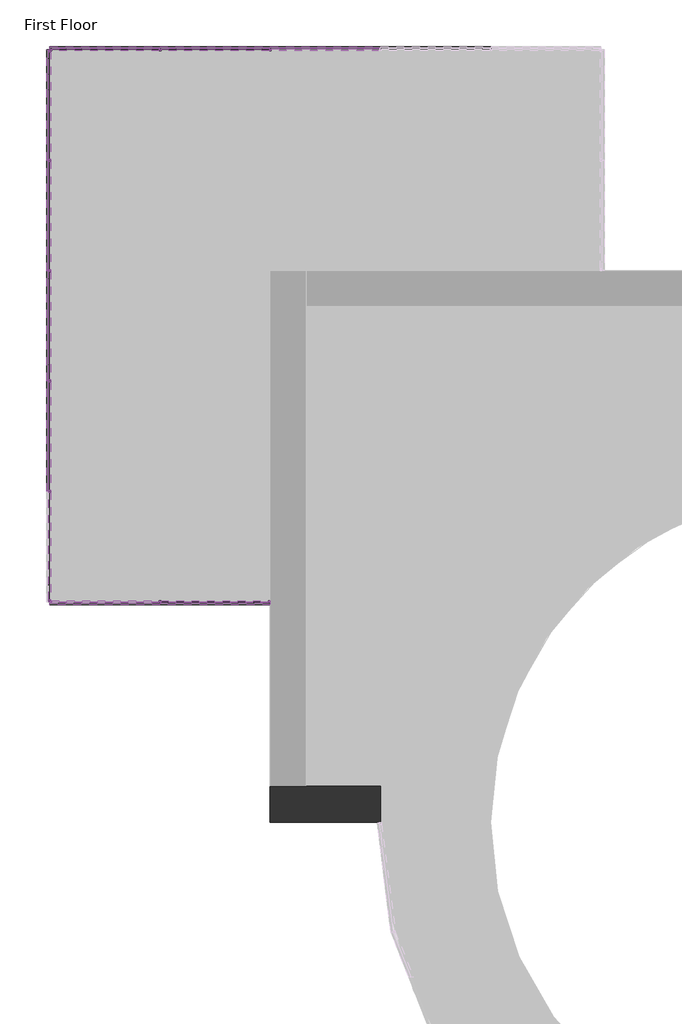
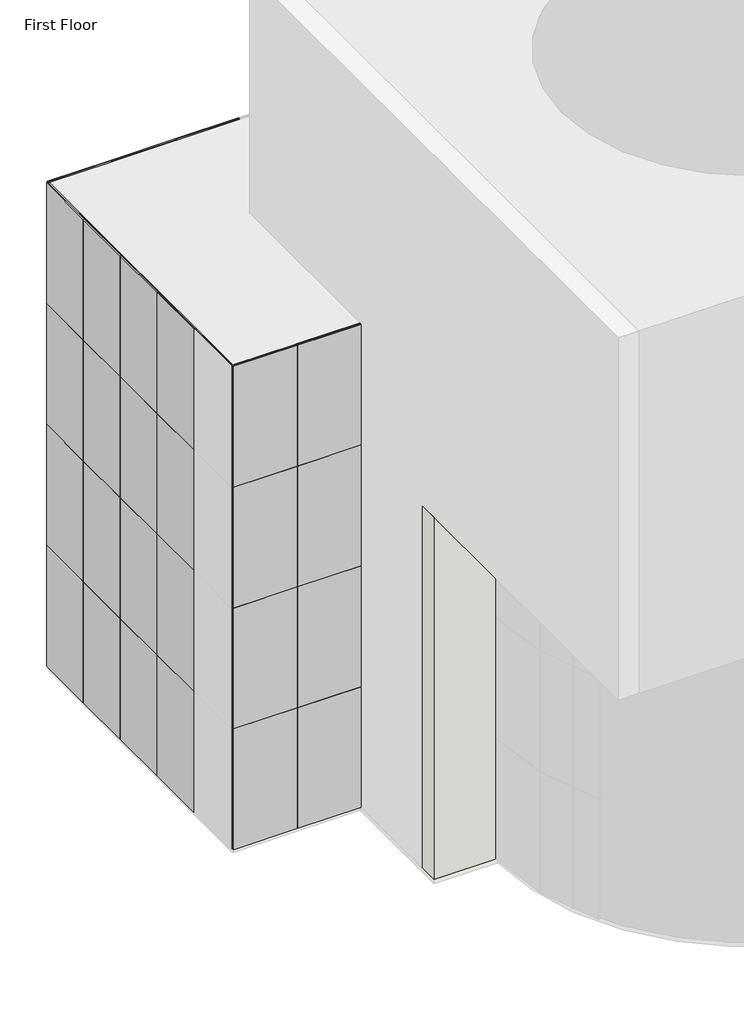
# One storey, part 3 of 4: 93 members, 37 plates, 1 wall.
"""IFC4 building model written with IfcOpenShell, lengths in millimetres."""

from ifc_helpers import new_model, si_unit, origin, place, context, project, spatial, faceted_brep, transform, mapped, element, save
from components import member_cbdb9076, member_7e523723, member_e16e0e7d, member_15743826, member_c4f80b05, member_9fd3d903, member_6604d1e0, system_panel_glazed_c0c5e10a

model = new_model("IFC4")

# Units and contexts
model_context = context("Model", 3, world=origin())
ifc_project = project(units=[si_unit("LENGTHUNIT", "METRE", prefix="MILLI")], contexts=[model_context])

# Site, building, storey
site = spatial("IfcSite", under=ifc_project)
building = spatial("IfcBuilding", under=site)
storey = spatial("IfcBuildingStorey", under=building, Name="First Floor", Elevation=0.0)

# Members
placement = place(None, origin())
member_shape = member_cbdb9076(model_context)
element("IfcMember", 1, ObjectType="Rectangular Mullion : 1\" Square", at=placement, inside=storey, context=model_context, shape_type="MappedRepresentation", body=[
    mapped(member_shape, transform((-12832.4887608, 7000.2454612, 0.0), x_axis=(1.0, 0.0, 0.0), y_axis=(0.0, -1.0, 0.0), z_axis=(0.0, 0.0, -1.0))),
])
element("IfcMember", 2, ObjectType="Rectangular Mullion : 1\" Square", at=placement, inside=storey, context=model_context, shape_type="MappedRepresentation", body=[
    mapped(member_shape, transform((-14356.4887611, 13096.2454609, 0.0), x_axis=(0.0, -1.0, 0.0), y_axis=(-1.0, 0.0, 0.0), z_axis=(0.0, 0.0, -1.0))),
])
element("IfcMember", 3, ObjectType="Rectangular Mullion : 1\" Square", at=placement, inside=storey, context=model_context, shape_type="MappedRepresentation", body=[
    mapped(member_shape, transform((-14356.4887611, 11572.2454609, 0.0), x_axis=(0.0, -1.0, 0.0), y_axis=(-1.0, 0.0, 0.0), z_axis=(0.0, 0.0, -1.0))),
])
element("IfcMember", 4, ObjectType="Rectangular Mullion : 1\" Square", at=placement, inside=storey, context=model_context, shape_type="MappedRepresentation", body=[
    mapped(member_shape, transform((-14356.4887611, 10048.2454609, 0.0), x_axis=(0.0, -1.0, 0.0), y_axis=(-1.0, 0.0, 0.0), z_axis=(0.0, 0.0, -1.0))),
])
element("IfcMember", 5, ObjectType="Rectangular Mullion : 1\" Square", at=placement, inside=storey, context=model_context, shape_type="MappedRepresentation", body=[
    mapped(member_shape, transform((-14356.4887611, 8524.2454609, 0.0), x_axis=(0.0, -1.0, 0.0), y_axis=(-1.0, 0.0, 0.0), z_axis=(0.0, 0.0, -1.0))),
])
element("IfcMember", 6, ObjectType="Rectangular Mullion : 1\" Square", at=placement, inside=storey, context=model_context, shape_type="MappedRepresentation", body=[
    mapped(member_shape, transform((-11308.4887614, 14620.2454612, 0.0), x_axis=(-1.0, 0.0, 0.0), y_axis=(0.0, 1.0, 0.0), z_axis=(0.0, 0.0, -1.0))),
])
element("IfcMember", 7, ObjectType="Rectangular Mullion : 1\" Square", at=placement, inside=storey, context=model_context, shape_type="MappedRepresentation", body=[
    mapped(member_shape, transform((-12832.4887614, 14620.2454612, 0.0), x_axis=(-1.0, 0.0, 0.0), y_axis=(0.0, 1.0, 0.0), z_axis=(0.0, 0.0, -1.0))),
])
element("IfcMember", 8, ObjectType="Rectangular Mullion : 1\" Square", at=placement, inside=storey, context=model_context, shape_type="MappedRepresentation", body=[
    mapped(member_shape, transform((-12832.4887608, 7000.2454612, 3048.0), x_axis=(1.0, 0.0, 0.0), y_axis=(0.0, -1.0, 0.0), z_axis=(0.0, 0.0, -1.0))),
])
element("IfcMember", 9, ObjectType="Rectangular Mullion : 1\" Square", at=placement, inside=storey, context=model_context, shape_type="MappedRepresentation", body=[
    mapped(member_shape, transform((-12832.4887608, 7000.2454612, 6096.0), x_axis=(1.0, 0.0, 0.0), y_axis=(0.0, -1.0, 0.0), z_axis=(0.0, 0.0, -1.0))),
])
element("IfcMember", 10, ObjectType="Rectangular Mullion : 1\" Square", at=placement, inside=storey, context=model_context, shape_type="MappedRepresentation", body=[
    mapped(member_shape, transform((-14356.4887611, 13096.2454609, 3048.0), x_axis=(0.0, -1.0, 0.0), y_axis=(-1.0, 0.0, 0.0), z_axis=(0.0, 0.0, -1.0))),
])
element("IfcMember", 11, ObjectType="Rectangular Mullion : 1\" Square", at=placement, inside=storey, context=model_context, shape_type="MappedRepresentation", body=[
    mapped(member_shape, transform((-14356.4887611, 13096.2454609, 6096.0), x_axis=(0.0, -1.0, 0.0), y_axis=(-1.0, 0.0, 0.0), z_axis=(0.0, 0.0, -1.0))),
])
element("IfcMember", 12, ObjectType="Rectangular Mullion : 1\" Square", at=placement, inside=storey, context=model_context, shape_type="MappedRepresentation", body=[
    mapped(member_shape, transform((-14356.4887611, 11572.2454609, 3048.0), x_axis=(0.0, -1.0, 0.0), y_axis=(-1.0, 0.0, 0.0), z_axis=(0.0, 0.0, -1.0))),
])
element("IfcMember", 13, ObjectType="Rectangular Mullion : 1\" Square", at=placement, inside=storey, context=model_context, shape_type="MappedRepresentation", body=[
    mapped(member_shape, transform((-14356.4887611, 11572.2454609, 6096.0), x_axis=(0.0, -1.0, 0.0), y_axis=(-1.0, 0.0, 0.0), z_axis=(0.0, 0.0, -1.0))),
])
element("IfcMember", 14, ObjectType="Rectangular Mullion : 1\" Square", at=placement, inside=storey, context=model_context, shape_type="MappedRepresentation", body=[
    mapped(member_shape, transform((-14356.4887611, 10048.2454609, 3048.0), x_axis=(0.0, -1.0, 0.0), y_axis=(-1.0, 0.0, 0.0), z_axis=(0.0, 0.0, -1.0))),
])
element("IfcMember", 15, ObjectType="Rectangular Mullion : 1\" Square", at=placement, inside=storey, context=model_context, shape_type="MappedRepresentation", body=[
    mapped(member_shape, transform((-14356.4887611, 10048.2454609, 6096.0), x_axis=(0.0, -1.0, 0.0), y_axis=(-1.0, 0.0, 0.0), z_axis=(0.0, 0.0, -1.0))),
])
element("IfcMember", 16, ObjectType="Rectangular Mullion : 1\" Square", at=placement, inside=storey, context=model_context, shape_type="MappedRepresentation", body=[
    mapped(member_shape, transform((-14356.4887611, 8524.2454609, 3048.0), x_axis=(0.0, -1.0, 0.0), y_axis=(-1.0, 0.0, 0.0), z_axis=(0.0, 0.0, -1.0))),
])
element("IfcMember", 17, ObjectType="Rectangular Mullion : 1\" Square", at=placement, inside=storey, context=model_context, shape_type="MappedRepresentation", body=[
    mapped(member_shape, transform((-14356.4887611, 8524.2454609, 6096.0), x_axis=(0.0, -1.0, 0.0), y_axis=(-1.0, 0.0, 0.0), z_axis=(0.0, 0.0, -1.0))),
])
element("IfcMember", 18, ObjectType="Rectangular Mullion : 1\" Square", at=placement, inside=storey, context=model_context, shape_type="MappedRepresentation", body=[
    mapped(member_shape, transform((-11308.4887614, 14620.2454612, 3048.0), x_axis=(-1.0, 0.0, 0.0), y_axis=(0.0, 1.0, 0.0), z_axis=(0.0, 0.0, -1.0))),
])
element("IfcMember", 19, ObjectType="Rectangular Mullion : 1\" Square", at=placement, inside=storey, context=model_context, shape_type="MappedRepresentation", body=[
    mapped(member_shape, transform((-11308.4887614, 14620.2454612, 6096.0), x_axis=(-1.0, 0.0, 0.0), y_axis=(0.0, 1.0, 0.0), z_axis=(0.0, 0.0, -1.0))),
])
element("IfcMember", 20, ObjectType="Rectangular Mullion : 1\" Square", at=placement, inside=storey, context=model_context, shape_type="MappedRepresentation", body=[
    mapped(member_shape, transform((-12832.4887614, 14620.2454612, 3048.0), x_axis=(-1.0, 0.0, 0.0), y_axis=(0.0, 1.0, 0.0), z_axis=(0.0, 0.0, -1.0))),
])
element("IfcMember", 21, ObjectType="Rectangular Mullion : 1\" Square", at=placement, inside=storey, context=model_context, shape_type="MappedRepresentation", body=[
    mapped(member_shape, transform((-12832.4887614, 14620.2454612, 6096.0), x_axis=(-1.0, 0.0, 0.0), y_axis=(0.0, 1.0, 0.0), z_axis=(0.0, 0.0, -1.0))),
])
element("IfcMember", 22, ObjectType="Rectangular Mullion : 1\" Square", at=placement, inside=storey, context=model_context, shape_type="MappedRepresentation", body=[
    mapped(member_shape, transform((-12832.4887608, 7000.2454612, 9144.0), x_axis=(1.0, 0.0, 0.0), y_axis=(0.0, -1.0, 0.0), z_axis=(0.0, 0.0, -1.0))),
])
element("IfcMember", 23, ObjectType="Rectangular Mullion : 1\" Square", at=placement, inside=storey, context=model_context, shape_type="MappedRepresentation", body=[
    mapped(member_shape, transform((-14356.4887611, 13096.2454609, 9144.0), x_axis=(0.0, -1.0, 0.0), y_axis=(-1.0, 0.0, 0.0), z_axis=(0.0, 0.0, -1.0))),
])
element("IfcMember", 24, ObjectType="Rectangular Mullion : 1\" Square", at=placement, inside=storey, context=model_context, shape_type="MappedRepresentation", body=[
    mapped(member_shape, transform((-14356.4887611, 11572.2454609, 9144.0), x_axis=(0.0, -1.0, 0.0), y_axis=(-1.0, 0.0, 0.0), z_axis=(0.0, 0.0, -1.0))),
])
element("IfcMember", 25, ObjectType="Rectangular Mullion : 1\" Square", at=placement, inside=storey, context=model_context, shape_type="MappedRepresentation", body=[
    mapped(member_shape, transform((-14356.4887611, 10048.2454609, 9144.0), x_axis=(0.0, -1.0, 0.0), y_axis=(-1.0, 0.0, 0.0), z_axis=(0.0, 0.0, -1.0))),
])
element("IfcMember", 26, ObjectType="Rectangular Mullion : 1\" Square", at=placement, inside=storey, context=model_context, shape_type="MappedRepresentation", body=[
    mapped(member_shape, transform((-14356.4887611, 8524.2454609, 9144.0), x_axis=(0.0, -1.0, 0.0), y_axis=(-1.0, 0.0, 0.0), z_axis=(0.0, 0.0, -1.0))),
])
element("IfcMember", 27, ObjectType="Rectangular Mullion : 1\" Square", at=placement, inside=storey, context=model_context, shape_type="MappedRepresentation", body=[
    mapped(member_shape, transform((-11308.4887614, 14620.2454612, 9144.0), x_axis=(-1.0, 0.0, 0.0), y_axis=(0.0, 1.0, 0.0), z_axis=(0.0, 0.0, -1.0))),
])
element("IfcMember", 28, ObjectType="Rectangular Mullion : 1\" Square", at=placement, inside=storey, context=model_context, shape_type="MappedRepresentation", body=[
    mapped(member_shape, transform((-12832.4887614, 14620.2454612, 9144.0), x_axis=(-1.0, 0.0, 0.0), y_axis=(0.0, 1.0, 0.0), z_axis=(0.0, 0.0, -1.0))),
])
member_2_shape = member_7e523723(model_context)
element("IfcMember", 29, ObjectType="Rectangular Mullion : 1\" Square", at=placement, inside=storey, context=model_context, shape_type="MappedRepresentation", body=[
    mapped(member_2_shape, transform((-11308.4887611, 7000.2454612, 0.0), x_axis=(1.0, 0.0, 0.0), y_axis=(0.0, -1.0, 0.0), z_axis=(0.0, 0.0, -1.0))),
])
element("IfcMember", 30, ObjectType="Rectangular Mullion : 1\" Square", at=placement, inside=storey, context=model_context, shape_type="MappedRepresentation", body=[
    mapped(member_2_shape, transform((-14356.4887611, 7000.2454612, 0.0), x_axis=(0.0, -1.0, 0.0), y_axis=(-1.0, 0.0, 0.0), z_axis=(0.0, 0.0, -1.0))),
])
element("IfcMember", 31, ObjectType="Rectangular Mullion : 1\" Square", at=placement, inside=storey, context=model_context, shape_type="MappedRepresentation", body=[
    mapped(member_2_shape, transform((-14356.4887611, 14620.2454612, 0.0), x_axis=(-1.0, 0.0, 0.0), y_axis=(0.0, 1.0, 0.0), z_axis=(0.0, 0.0, -1.0))),
])
element("IfcMember", 32, ObjectType="Rectangular Mullion : 1\" Square", at=placement, inside=storey, context=model_context, shape_type="MappedRepresentation", body=[
    mapped(member_2_shape, transform((-14356.4887611, 14620.2454612, 12192.0), x_axis=(0.0, 1.0, 0.0), y_axis=(-1.0, 0.0, 0.0), z_axis=(0.0, 0.0, 1.0))),
])
element("IfcMember", 33, ObjectType="Rectangular Mullion : 1\" Square", at=placement, inside=storey, context=model_context, shape_type="MappedRepresentation", body=[
    mapped(member_2_shape, transform((-14356.4887611, 14620.2454612, 3048.0), x_axis=(0.0, 1.0, 0.0), y_axis=(-1.0, 0.0, 0.0), z_axis=(0.0, 0.0, 1.0))),
])
element("IfcMember", 34, ObjectType="Rectangular Mullion : 1\" Square", at=placement, inside=storey, context=model_context, shape_type="MappedRepresentation", body=[
    mapped(member_2_shape, transform((-14356.4887611, 7000.2454612, 9144.0), x_axis=(-1.0, 0.0, 0.0), y_axis=(0.0, -1.0, 0.0), z_axis=(0.0, 0.0, 1.0))),
])
element("IfcMember", 35, ObjectType="Rectangular Mullion : 1\" Square", at=placement, inside=storey, context=model_context, shape_type="MappedRepresentation", body=[
    mapped(member_2_shape, transform((-14356.4887611, 14620.2454612, 6096.0), x_axis=(0.0, 1.0, 0.0), y_axis=(-1.0, 0.0, 0.0), z_axis=(0.0, 0.0, 1.0))),
])
element("IfcMember", 36, ObjectType="Rectangular Mullion : 1\" Square", at=placement, inside=storey, context=model_context, shape_type="MappedRepresentation", body=[
    mapped(member_2_shape, transform((-14356.4887611, 14620.2454612, 9144.0), x_axis=(0.0, 1.0, 0.0), y_axis=(-1.0, 0.0, 0.0), z_axis=(0.0, 0.0, 1.0))),
])
element("IfcMember", 37, ObjectType="Rectangular Mullion : 1\" Square", at=placement, inside=storey, context=model_context, shape_type="MappedRepresentation", body=[
    mapped(member_2_shape, transform((-11308.4887611, 7000.2454612, 3048.0), x_axis=(1.0, 0.0, 0.0), y_axis=(0.0, -1.0, 0.0), z_axis=(0.0, 0.0, -1.0))),
])
element("IfcMember", 38, ObjectType="Rectangular Mullion : 1\" Square", at=placement, inside=storey, context=model_context, shape_type="MappedRepresentation", body=[
    mapped(member_2_shape, transform((-11308.4887611, 7000.2454612, 6096.0), x_axis=(1.0, 0.0, 0.0), y_axis=(0.0, -1.0, 0.0), z_axis=(0.0, 0.0, -1.0))),
])
element("IfcMember", 39, ObjectType="Rectangular Mullion : 1\" Square", at=placement, inside=storey, context=model_context, shape_type="MappedRepresentation", body=[
    mapped(member_2_shape, transform((-14356.4887611, 7000.2454612, 3048.0), x_axis=(0.0, -1.0, 0.0), y_axis=(-1.0, 0.0, 0.0), z_axis=(0.0, 0.0, -1.0))),
])
element("IfcMember", 40, ObjectType="Rectangular Mullion : 1\" Square", at=placement, inside=storey, context=model_context, shape_type="MappedRepresentation", body=[
    mapped(member_2_shape, transform((-14356.4887611, 7000.2454612, 6096.0), x_axis=(0.0, -1.0, 0.0), y_axis=(-1.0, 0.0, 0.0), z_axis=(0.0, 0.0, -1.0))),
])
element("IfcMember", 41, ObjectType="Rectangular Mullion : 1\" Square", at=placement, inside=storey, context=model_context, shape_type="MappedRepresentation", body=[
    mapped(member_2_shape, transform((-14356.4887611, 14620.2454612, 3048.0), x_axis=(-1.0, 0.0, 0.0), y_axis=(0.0, 1.0, 0.0), z_axis=(0.0, 0.0, -1.0))),
])
element("IfcMember", 42, ObjectType="Rectangular Mullion : 1\" Square", at=placement, inside=storey, context=model_context, shape_type="MappedRepresentation", body=[
    mapped(member_2_shape, transform((-14356.4887611, 14620.2454612, 6096.0), x_axis=(-1.0, 0.0, 0.0), y_axis=(0.0, 1.0, 0.0), z_axis=(0.0, 0.0, -1.0))),
])
element("IfcMember", 43, ObjectType="Rectangular Mullion : 1\" Square", at=placement, inside=storey, context=model_context, shape_type="MappedRepresentation", body=[
    mapped(member_2_shape, transform((-11308.4887611, 7000.2454612, 9144.0), x_axis=(1.0, 0.0, 0.0), y_axis=(0.0, -1.0, 0.0), z_axis=(0.0, 0.0, -1.0))),
])
element("IfcMember", 44, ObjectType="Rectangular Mullion : 1\" Square", at=placement, inside=storey, context=model_context, shape_type="MappedRepresentation", body=[
    mapped(member_2_shape, transform((-14356.4887611, 7000.2454612, 9144.0), x_axis=(0.0, -1.0, 0.0), y_axis=(-1.0, 0.0, 0.0), z_axis=(0.0, 0.0, -1.0))),
])
element("IfcMember", 45, ObjectType="Rectangular Mullion : 1\" Square", at=placement, inside=storey, context=model_context, shape_type="MappedRepresentation", body=[
    mapped(member_2_shape, transform((-14356.4887611, 14620.2454612, 9144.0), x_axis=(-1.0, 0.0, 0.0), y_axis=(0.0, 1.0, 0.0), z_axis=(0.0, 0.0, -1.0))),
])
member_3_shape = member_e16e0e7d(model_context)
element("IfcMember", 46, ObjectType="Rectangular Mullion : 1\" Square", at=placement, inside=storey, context=model_context, shape_type="MappedRepresentation", body=[
    mapped(member_3_shape, transform((-11333.8887611, 7000.2454612, 12192.0), x_axis=(0.0, 0.0, 1.0), y_axis=(0.0, -1.0, 0.0), z_axis=(1.0, 0.0, 0.0))),
])
element("IfcMember", 47, ObjectType="Rectangular Mullion : 1\" Square", at=placement, inside=storey, context=model_context, shape_type="MappedRepresentation", body=[
    mapped(member_3_shape, transform((-12845.1887608, 7000.2454612, 12192.0), x_axis=(0.0, 0.0, 1.0), y_axis=(0.0, -1.0, 0.0), z_axis=(1.0, 0.0, 0.0))),
])
element("IfcMember", 48, ObjectType="Rectangular Mullion : 1\" Square", at=placement, inside=storey, context=model_context, shape_type="MappedRepresentation", body=[
    mapped(member_3_shape, transform((-14356.4887611, 7025.6454612, 12192.0), x_axis=(0.0, 0.0, 1.0), y_axis=(-1.0, 0.0, 0.0), z_axis=(0.0, -1.0, 0.0))),
])
element("IfcMember", 49, ObjectType="Rectangular Mullion : 1\" Square", at=placement, inside=storey, context=model_context, shape_type="MappedRepresentation", body=[
    mapped(member_3_shape, transform((-14356.4887611, 13108.9454609, 12192.0), x_axis=(0.0, 0.0, 1.0), y_axis=(-1.0, 0.0, 0.0), z_axis=(0.0, -1.0, 0.0))),
])
element("IfcMember", 50, ObjectType="Rectangular Mullion : 1\" Square", at=placement, inside=storey, context=model_context, shape_type="MappedRepresentation", body=[
    mapped(member_3_shape, transform((-14331.0887611, 14620.2454612, 12192.0), x_axis=(0.0, 0.0, 1.0), y_axis=(0.0, 1.0, 0.0), z_axis=(-1.0, 0.0, 0.0))),
])
member_4_shape = member_15743826(model_context)
element("IfcMember", 51, ObjectType="Rectangular Mullion : 1\" Square", at=placement, inside=storey, context=model_context, shape_type="MappedRepresentation", body=[
    mapped(member_4_shape, transform((-12819.7887608, 7000.2454612, 0.0), x_axis=(0.0, 0.0, -1.0), y_axis=(0.0, -1.0, 0.0), z_axis=(-1.0, 0.0, 0.0))),
])
element("IfcMember", 52, ObjectType="Rectangular Mullion : 1\" Square", at=placement, inside=storey, context=model_context, shape_type="MappedRepresentation", body=[
    mapped(member_4_shape, transform((-14356.4887611, 14594.8454612, 0.0), x_axis=(0.0, 0.0, -1.0), y_axis=(-1.0, 0.0, 0.0), z_axis=(0.0, 1.0, 0.0))),
])
element("IfcMember", 53, ObjectType="Rectangular Mullion : 1\" Square", at=placement, inside=storey, context=model_context, shape_type="MappedRepresentation", body=[
    mapped(member_4_shape, transform((-14356.4887611, 8511.5454609, 0.0), x_axis=(0.0, 0.0, -1.0), y_axis=(-1.0, 0.0, 0.0), z_axis=(0.0, 1.0, 0.0))),
])
element("IfcMember", 54, ObjectType="Rectangular Mullion : 1\" Square", at=placement, inside=storey, context=model_context, shape_type="MappedRepresentation", body=[
    mapped(member_4_shape, transform((-12845.1887614, 14620.2454612, 0.0), x_axis=(0.0, 0.0, -1.0), y_axis=(0.0, 1.0, 0.0), z_axis=(1.0, 0.0, 0.0))),
])
member_5_shape = member_c4f80b05(model_context)
element("IfcMember", 55, ObjectType="Rectangular Mullion : 1\" Square", at=placement, inside=storey, context=model_context, shape_type="MappedRepresentation", body=[
    mapped(member_5_shape, transform((-12845.1887608, 7000.2454612, 3048.0), x_axis=(0.0, 0.0, 1.0), y_axis=(0.0, -1.0, 0.0), z_axis=(1.0, 0.0, 0.0))),
])
element("IfcMember", 56, ObjectType="Rectangular Mullion : 1\" Square", at=placement, inside=storey, context=model_context, shape_type="MappedRepresentation", body=[
    mapped(member_5_shape, transform((-11333.8887611, 7000.2454612, 3048.0), x_axis=(0.0, 0.0, 1.0), y_axis=(0.0, -1.0, 0.0), z_axis=(1.0, 0.0, 0.0))),
])
element("IfcMember", 57, ObjectType="Rectangular Mullion : 1\" Square", at=placement, inside=storey, context=model_context, shape_type="MappedRepresentation", body=[
    mapped(member_5_shape, transform((-12845.1887608, 7000.2454612, 6096.0), x_axis=(0.0, 0.0, 1.0), y_axis=(0.0, -1.0, 0.0), z_axis=(1.0, 0.0, 0.0))),
])
element("IfcMember", 58, ObjectType="Rectangular Mullion : 1\" Square", at=placement, inside=storey, context=model_context, shape_type="MappedRepresentation", body=[
    mapped(member_5_shape, transform((-11333.8887611, 7000.2454612, 6096.0), x_axis=(0.0, 0.0, 1.0), y_axis=(0.0, -1.0, 0.0), z_axis=(1.0, 0.0, 0.0))),
])
element("IfcMember", 59, ObjectType="Rectangular Mullion : 1\" Square", at=placement, inside=storey, context=model_context, shape_type="MappedRepresentation", body=[
    mapped(member_5_shape, transform((-12845.1887608, 7000.2454612, 9144.0), x_axis=(0.0, 0.0, 1.0), y_axis=(0.0, -1.0, 0.0), z_axis=(1.0, 0.0, 0.0))),
])
element("IfcMember", 60, ObjectType="Rectangular Mullion : 1\" Square", at=placement, inside=storey, context=model_context, shape_type="MappedRepresentation", body=[
    mapped(member_5_shape, transform((-11333.8887611, 7000.2454612, 9144.0), x_axis=(0.0, 0.0, 1.0), y_axis=(0.0, -1.0, 0.0), z_axis=(1.0, 0.0, 0.0))),
])
element("IfcMember", 61, ObjectType="Rectangular Mullion : 1\" Square", at=placement, inside=storey, context=model_context, shape_type="MappedRepresentation", body=[
    mapped(member_5_shape, transform((-14356.4887611, 13108.9454609, 3048.0), x_axis=(0.0, 0.0, 1.0), y_axis=(-1.0, 0.0, 0.0), z_axis=(0.0, -1.0, 0.0))),
])
element("IfcMember", 62, ObjectType="Rectangular Mullion : 1\" Square", at=placement, inside=storey, context=model_context, shape_type="MappedRepresentation", body=[
    mapped(member_5_shape, transform((-14356.4887611, 7025.6454612, 3048.0), x_axis=(0.0, 0.0, 1.0), y_axis=(-1.0, 0.0, 0.0), z_axis=(0.0, -1.0, 0.0))),
])
element("IfcMember", 63, ObjectType="Rectangular Mullion : 1\" Square", at=placement, inside=storey, context=model_context, shape_type="MappedRepresentation", body=[
    mapped(member_5_shape, transform((-14356.4887611, 13108.9454609, 6096.0), x_axis=(0.0, 0.0, 1.0), y_axis=(-1.0, 0.0, 0.0), z_axis=(0.0, -1.0, 0.0))),
])
element("IfcMember", 64, ObjectType="Rectangular Mullion : 1\" Square", at=placement, inside=storey, context=model_context, shape_type="MappedRepresentation", body=[
    mapped(member_5_shape, transform((-14356.4887611, 7025.6454612, 6096.0), x_axis=(0.0, 0.0, 1.0), y_axis=(-1.0, 0.0, 0.0), z_axis=(0.0, -1.0, 0.0))),
])
element("IfcMember", 65, ObjectType="Rectangular Mullion : 1\" Square", at=placement, inside=storey, context=model_context, shape_type="MappedRepresentation", body=[
    mapped(member_5_shape, transform((-14356.4887611, 13108.9454609, 9144.0), x_axis=(0.0, 0.0, 1.0), y_axis=(-1.0, 0.0, 0.0), z_axis=(0.0, -1.0, 0.0))),
])
element("IfcMember", 66, ObjectType="Rectangular Mullion : 1\" Square", at=placement, inside=storey, context=model_context, shape_type="MappedRepresentation", body=[
    mapped(member_5_shape, transform((-14356.4887611, 7025.6454612, 9144.0), x_axis=(0.0, 0.0, 1.0), y_axis=(-1.0, 0.0, 0.0), z_axis=(0.0, -1.0, 0.0))),
])
element("IfcMember", 67, ObjectType="Rectangular Mullion : 1\" Square", at=placement, inside=storey, context=model_context, shape_type="MappedRepresentation", body=[
    mapped(member_5_shape, transform((-14331.0887611, 14620.2454612, 3048.0), x_axis=(0.0, 0.0, 1.0), y_axis=(0.0, 1.0, 0.0), z_axis=(-1.0, 0.0, 0.0))),
])
element("IfcMember", 68, ObjectType="Rectangular Mullion : 1\" Square", at=placement, inside=storey, context=model_context, shape_type="MappedRepresentation", body=[
    mapped(member_5_shape, transform((-14331.0887611, 14620.2454612, 6096.0), x_axis=(0.0, 0.0, 1.0), y_axis=(0.0, 1.0, 0.0), z_axis=(-1.0, 0.0, 0.0))),
])
element("IfcMember", 69, ObjectType="Rectangular Mullion : 1\" Square", at=placement, inside=storey, context=model_context, shape_type="MappedRepresentation", body=[
    mapped(member_5_shape, transform((-14331.0887611, 14620.2454612, 9144.0), x_axis=(0.0, 0.0, 1.0), y_axis=(0.0, 1.0, 0.0), z_axis=(-1.0, 0.0, 0.0))),
])
member_6_shape = member_9fd3d903(model_context)
element("IfcMember", 70, ObjectType="Rectangular Mullion : 1\" Square", at=placement, inside=storey, context=model_context, shape_type="MappedRepresentation", body=[
    mapped(member_6_shape, transform((-14356.4887611, 11584.9454609, 3048.0), x_axis=(0.0, 0.0, 1.0), y_axis=(-1.0, 0.0, 0.0), z_axis=(0.0, -1.0, 0.0))),
])
element("IfcMember", 71, ObjectType="Rectangular Mullion : 1\" Square", at=placement, inside=storey, context=model_context, shape_type="MappedRepresentation", body=[
    mapped(member_6_shape, transform((-14356.4887611, 10060.9454609, 3048.0), x_axis=(0.0, 0.0, 1.0), y_axis=(-1.0, 0.0, 0.0), z_axis=(0.0, -1.0, 0.0))),
])
element("IfcMember", 72, ObjectType="Rectangular Mullion : 1\" Square", at=placement, inside=storey, context=model_context, shape_type="MappedRepresentation", body=[
    mapped(member_6_shape, transform((-14356.4887611, 8536.9454609, 3048.0), x_axis=(0.0, 0.0, 1.0), y_axis=(-1.0, 0.0, 0.0), z_axis=(0.0, -1.0, 0.0))),
])
element("IfcMember", 73, ObjectType="Rectangular Mullion : 1\" Square", at=placement, inside=storey, context=model_context, shape_type="MappedRepresentation", body=[
    mapped(member_6_shape, transform((-14356.4887611, 11584.9454609, 6096.0), x_axis=(0.0, 0.0, 1.0), y_axis=(-1.0, 0.0, 0.0), z_axis=(0.0, -1.0, 0.0))),
])
element("IfcMember", 74, ObjectType="Rectangular Mullion : 1\" Square", at=placement, inside=storey, context=model_context, shape_type="MappedRepresentation", body=[
    mapped(member_6_shape, transform((-14356.4887611, 10060.9454609, 6096.0), x_axis=(0.0, 0.0, 1.0), y_axis=(-1.0, 0.0, 0.0), z_axis=(0.0, -1.0, 0.0))),
])
element("IfcMember", 75, ObjectType="Rectangular Mullion : 1\" Square", at=placement, inside=storey, context=model_context, shape_type="MappedRepresentation", body=[
    mapped(member_6_shape, transform((-14356.4887611, 8536.9454609, 6096.0), x_axis=(0.0, 0.0, 1.0), y_axis=(-1.0, 0.0, 0.0), z_axis=(0.0, -1.0, 0.0))),
])
element("IfcMember", 76, ObjectType="Rectangular Mullion : 1\" Square", at=placement, inside=storey, context=model_context, shape_type="MappedRepresentation", body=[
    mapped(member_6_shape, transform((-14356.4887611, 11584.9454609, 9144.0), x_axis=(0.0, 0.0, 1.0), y_axis=(-1.0, 0.0, 0.0), z_axis=(0.0, -1.0, 0.0))),
])
element("IfcMember", 77, ObjectType="Rectangular Mullion : 1\" Square", at=placement, inside=storey, context=model_context, shape_type="MappedRepresentation", body=[
    mapped(member_6_shape, transform((-14356.4887611, 10060.9454609, 9144.0), x_axis=(0.0, 0.0, 1.0), y_axis=(-1.0, 0.0, 0.0), z_axis=(0.0, -1.0, 0.0))),
])
element("IfcMember", 78, ObjectType="Rectangular Mullion : 1\" Square", at=placement, inside=storey, context=model_context, shape_type="MappedRepresentation", body=[
    mapped(member_6_shape, transform((-14356.4887611, 8536.9454609, 9144.0), x_axis=(0.0, 0.0, 1.0), y_axis=(-1.0, 0.0, 0.0), z_axis=(0.0, -1.0, 0.0))),
])
element("IfcMember", 79, ObjectType="Rectangular Mullion : 1\" Square", at=placement, inside=storey, context=model_context, shape_type="MappedRepresentation", body=[
    mapped(member_6_shape, transform((-11295.7887614, 14620.2454612, 3048.0), x_axis=(0.0, 0.0, 1.0), y_axis=(0.0, 1.0, 0.0), z_axis=(-1.0, 0.0, 0.0))),
])
element("IfcMember", 80, ObjectType="Rectangular Mullion : 1\" Square", at=placement, inside=storey, context=model_context, shape_type="MappedRepresentation", body=[
    mapped(member_6_shape, transform((-12819.7887614, 14620.2454612, 3048.0), x_axis=(0.0, 0.0, 1.0), y_axis=(0.0, 1.0, 0.0), z_axis=(-1.0, 0.0, 0.0))),
])
element("IfcMember", 81, ObjectType="Rectangular Mullion : 1\" Square", at=placement, inside=storey, context=model_context, shape_type="MappedRepresentation", body=[
    mapped(member_6_shape, transform((-11295.7887614, 14620.2454612, 6096.0), x_axis=(0.0, 0.0, 1.0), y_axis=(0.0, 1.0, 0.0), z_axis=(-1.0, 0.0, 0.0))),
])
element("IfcMember", 82, ObjectType="Rectangular Mullion : 1\" Square", at=placement, inside=storey, context=model_context, shape_type="MappedRepresentation", body=[
    mapped(member_6_shape, transform((-12819.7887614, 14620.2454612, 6096.0), x_axis=(0.0, 0.0, 1.0), y_axis=(0.0, 1.0, 0.0), z_axis=(-1.0, 0.0, 0.0))),
])
element("IfcMember", 83, ObjectType="Rectangular Mullion : 1\" Square", at=placement, inside=storey, context=model_context, shape_type="MappedRepresentation", body=[
    mapped(member_6_shape, transform((-11295.7887614, 14620.2454612, 9144.0), x_axis=(0.0, 0.0, 1.0), y_axis=(0.0, 1.0, 0.0), z_axis=(-1.0, 0.0, 0.0))),
])
element("IfcMember", 84, ObjectType="Rectangular Mullion : 1\" Square", at=placement, inside=storey, context=model_context, shape_type="MappedRepresentation", body=[
    mapped(member_6_shape, transform((-12819.7887614, 14620.2454612, 9144.0), x_axis=(0.0, 0.0, 1.0), y_axis=(0.0, 1.0, 0.0), z_axis=(-1.0, 0.0, 0.0))),
])
member_7_shape = member_6604d1e0(model_context)
element("IfcMember", 85, ObjectType="Rectangular Mullion : 1\" Square", at=placement, inside=storey, context=model_context, shape_type="MappedRepresentation", body=[
    mapped(member_7_shape, transform((-14356.4887611, 13083.5454609, 0.0), x_axis=(0.0, 0.0, -1.0), y_axis=(-1.0, 0.0, 0.0), z_axis=(0.0, 1.0, 0.0))),
])
element("IfcMember", 86, ObjectType="Rectangular Mullion : 1\" Square", at=placement, inside=storey, context=model_context, shape_type="MappedRepresentation", body=[
    mapped(member_7_shape, transform((-14356.4887611, 11559.5454609, 0.0), x_axis=(0.0, 0.0, -1.0), y_axis=(-1.0, 0.0, 0.0), z_axis=(0.0, 1.0, 0.0))),
])
element("IfcMember", 87, ObjectType="Rectangular Mullion : 1\" Square", at=placement, inside=storey, context=model_context, shape_type="MappedRepresentation", body=[
    mapped(member_7_shape, transform((-14356.4887611, 10035.5454609, 0.0), x_axis=(0.0, 0.0, -1.0), y_axis=(-1.0, 0.0, 0.0), z_axis=(0.0, 1.0, 0.0))),
])
element("IfcMember", 88, ObjectType="Rectangular Mullion : 1\" Square", at=placement, inside=storey, context=model_context, shape_type="MappedRepresentation", body=[
    mapped(member_7_shape, transform((-11321.1887614, 14620.2454612, 0.0), x_axis=(0.0, 0.0, -1.0), y_axis=(0.0, 1.0, 0.0), z_axis=(1.0, 0.0, 0.0))),
])
element("IfcMember", 89, ObjectType="Rectangular Mullion : 1\" Square", at=placement, inside=storey, context=model_context, shape_type="MappedRepresentation", body=[
    mapped(member_7_shape, transform((-14356.4887611, 11584.9454609, 12192.0), x_axis=(0.0, 0.0, 1.0), y_axis=(-1.0, 0.0, 0.0), z_axis=(0.0, -1.0, 0.0))),
])
element("IfcMember", 90, ObjectType="Rectangular Mullion : 1\" Square", at=placement, inside=storey, context=model_context, shape_type="MappedRepresentation", body=[
    mapped(member_7_shape, transform((-14356.4887611, 10060.9454609, 12192.0), x_axis=(0.0, 0.0, 1.0), y_axis=(-1.0, 0.0, 0.0), z_axis=(0.0, -1.0, 0.0))),
])
element("IfcMember", 91, ObjectType="Rectangular Mullion : 1\" Square", at=placement, inside=storey, context=model_context, shape_type="MappedRepresentation", body=[
    mapped(member_7_shape, transform((-14356.4887611, 8536.9454609, 12192.0), x_axis=(0.0, 0.0, 1.0), y_axis=(-1.0, 0.0, 0.0), z_axis=(0.0, -1.0, 0.0))),
])
element("IfcMember", 92, ObjectType="Rectangular Mullion : 1\" Square", at=placement, inside=storey, context=model_context, shape_type="MappedRepresentation", body=[
    mapped(member_7_shape, transform((-11295.7887614, 14620.2454612, 12192.0), x_axis=(0.0, 0.0, 1.0), y_axis=(0.0, 1.0, 0.0), z_axis=(-1.0, 0.0, 0.0))),
])
element("IfcMember", 93, ObjectType="Rectangular Mullion : 1\" Square", at=placement, inside=storey, context=model_context, shape_type="MappedRepresentation", body=[
    mapped(member_7_shape, transform((-12819.7887614, 14620.2454612, 12192.0), x_axis=(0.0, 0.0, 1.0), y_axis=(0.0, 1.0, 0.0), z_axis=(-1.0, 0.0, 0.0))),
])

# Plates
system_panel_glazed_shape = system_panel_glazed_c0c5e10a(model_context)
element("IfcPlate", 94, ObjectType="System Panel : Glazed", at=placement, inside=storey, context=model_context, shape_type="MappedRepresentation", body=[
    mapped(system_panel_glazed_shape, transform((-14356.4887611, 13858.245461, 0.0), x_axis=(0.0, -1.0, 0.0), y_axis=(1.0, 0.0, 0.0), z_axis=(0.0, 0.0, 1.0))),
])
element("IfcPlate", 95, ObjectType="System Panel : Glazed", at=placement, inside=storey, context=model_context, shape_type="MappedRepresentation", body=[
    mapped(system_panel_glazed_shape, transform((-14356.4887611, 12334.2454609, 0.0), x_axis=(0.0, -1.0, 0.0), y_axis=(1.0, 0.0, 0.0), z_axis=(0.0, 0.0, 1.0))),
])
element("IfcPlate", 96, ObjectType="System Panel : Glazed", at=placement, inside=storey, context=model_context, shape_type="MappedRepresentation", body=[
    mapped(system_panel_glazed_shape, transform((-14356.4887611, 10810.2454609, 0.0), x_axis=(0.0, -1.0, 0.0), y_axis=(1.0, 0.0, 0.0), z_axis=(0.0, 0.0, 1.0))),
])
element("IfcPlate", 97, ObjectType="System Panel : Glazed", at=placement, inside=storey, context=model_context, shape_type="MappedRepresentation", body=[
    mapped(system_panel_glazed_shape, transform((-14356.4887611, 9286.2454609, 0.0), x_axis=(0.0, -1.0, 0.0), y_axis=(1.0, 0.0, 0.0), z_axis=(0.0, 0.0, 1.0))),
])
element("IfcPlate", 98, ObjectType="System Panel : Glazed", at=placement, inside=storey, context=model_context, shape_type="MappedRepresentation", body=[
    mapped(system_panel_glazed_shape, transform((-14356.4887611, 13858.245461, 3048.0), x_axis=(0.0, -1.0, 0.0), y_axis=(1.0, 0.0, 0.0), z_axis=(0.0, 0.0, 1.0))),
])
element("IfcPlate", 99, ObjectType="System Panel : Glazed", at=placement, inside=storey, context=model_context, shape_type="MappedRepresentation", body=[
    mapped(system_panel_glazed_shape, transform((-14356.4887611, 12334.2454609, 3048.0), x_axis=(0.0, -1.0, 0.0), y_axis=(1.0, 0.0, 0.0), z_axis=(0.0, 0.0, 1.0))),
])
element("IfcPlate", 100, ObjectType="System Panel : Glazed", at=placement, inside=storey, context=model_context, shape_type="MappedRepresentation", body=[
    mapped(system_panel_glazed_shape, transform((-14356.4887611, 10810.2454609, 3048.0), x_axis=(0.0, -1.0, 0.0), y_axis=(1.0, 0.0, 0.0), z_axis=(0.0, 0.0, 1.0))),
])
element("IfcPlate", 101, ObjectType="System Panel : Glazed", at=placement, inside=storey, context=model_context, shape_type="MappedRepresentation", body=[
    mapped(system_panel_glazed_shape, transform((-14356.4887611, 9286.2454609, 3048.0), x_axis=(0.0, -1.0, 0.0), y_axis=(1.0, 0.0, 0.0), z_axis=(0.0, 0.0, 1.0))),
])
element("IfcPlate", 102, ObjectType="System Panel : Glazed", at=placement, inside=storey, context=model_context, shape_type="MappedRepresentation", body=[
    mapped(system_panel_glazed_shape, transform((-14356.4887611, 13858.245461, 6096.0), x_axis=(0.0, -1.0, 0.0), y_axis=(1.0, 0.0, 0.0), z_axis=(0.0, 0.0, 1.0))),
])
element("IfcPlate", 103, ObjectType="System Panel : Glazed", at=placement, inside=storey, context=model_context, shape_type="MappedRepresentation", body=[
    mapped(system_panel_glazed_shape, transform((-14356.4887611, 12334.2454609, 6096.0), x_axis=(0.0, -1.0, 0.0), y_axis=(1.0, 0.0, 0.0), z_axis=(0.0, 0.0, 1.0))),
])
element("IfcPlate", 104, ObjectType="System Panel : Glazed", at=placement, inside=storey, context=model_context, shape_type="MappedRepresentation", body=[
    mapped(system_panel_glazed_shape, transform((-14356.4887611, 10810.2454609, 6096.0), x_axis=(0.0, -1.0, 0.0), y_axis=(1.0, 0.0, 0.0), z_axis=(0.0, 0.0, 1.0))),
])
element("IfcPlate", 105, ObjectType="System Panel : Glazed", at=placement, inside=storey, context=model_context, shape_type="MappedRepresentation", body=[
    mapped(system_panel_glazed_shape, transform((-14356.4887611, 9286.2454609, 6096.0), x_axis=(0.0, -1.0, 0.0), y_axis=(1.0, 0.0, 0.0), z_axis=(0.0, 0.0, 1.0))),
])
element("IfcPlate", 106, ObjectType="System Panel : Glazed", at=placement, inside=storey, context=model_context, shape_type="MappedRepresentation", body=[
    mapped(system_panel_glazed_shape, transform((-14356.4887611, 13858.245461, 9144.0), x_axis=(0.0, -1.0, 0.0), y_axis=(1.0, 0.0, 0.0), z_axis=(0.0, 0.0, 1.0))),
])
element("IfcPlate", 107, ObjectType="System Panel : Glazed", at=placement, inside=storey, context=model_context, shape_type="MappedRepresentation", body=[
    mapped(system_panel_glazed_shape, transform((-14356.4887611, 12334.2454609, 9144.0), x_axis=(0.0, -1.0, 0.0), y_axis=(1.0, 0.0, 0.0), z_axis=(0.0, 0.0, 1.0))),
])
element("IfcPlate", 108, ObjectType="System Panel : Glazed", at=placement, inside=storey, context=model_context, shape_type="MappedRepresentation", body=[
    mapped(system_panel_glazed_shape, transform((-14356.4887611, 10810.2454609, 9144.0), x_axis=(0.0, -1.0, 0.0), y_axis=(1.0, 0.0, 0.0), z_axis=(0.0, 0.0, 1.0))),
])
element("IfcPlate", 109, ObjectType="System Panel : Glazed", at=placement, inside=storey, context=model_context, shape_type="MappedRepresentation", body=[
    mapped(system_panel_glazed_shape, transform((-14356.4887611, 9286.2454609, 9144.0), x_axis=(0.0, -1.0, 0.0), y_axis=(1.0, 0.0, 0.0), z_axis=(0.0, 0.0, 1.0))),
])
element("IfcPlate", 110, ObjectType="System Panel : Glazed", at=placement, inside=storey, context=model_context, shape_type="MappedRepresentation", body=[
    mapped(system_panel_glazed_shape, transform((-13594.4887609, 7000.2454612, 0.0), x_axis=(1.0, 0.0, 0.0), y_axis=(0.0, 1.0, 0.0), z_axis=(0.0, 0.0, 1.0))),
])
element("IfcPlate", 111, ObjectType="System Panel : Glazed", at=placement, inside=storey, context=model_context, shape_type="MappedRepresentation", body=[
    mapped(system_panel_glazed_shape, transform((-12070.4887609, 7000.2454612, 0.0), x_axis=(1.0, 0.0, 0.0), y_axis=(0.0, 1.0, 0.0), z_axis=(0.0, 0.0, 1.0))),
])
element("IfcPlate", 112, ObjectType="System Panel : Glazed", at=placement, inside=storey, context=model_context, shape_type="MappedRepresentation", body=[
    mapped(system_panel_glazed_shape, transform((-13594.4887609, 7000.2454612, 3048.0), x_axis=(1.0, 0.0, 0.0), y_axis=(0.0, 1.0, 0.0), z_axis=(0.0, 0.0, 1.0))),
])
element("IfcPlate", 113, ObjectType="System Panel : Glazed", at=placement, inside=storey, context=model_context, shape_type="MappedRepresentation", body=[
    mapped(system_panel_glazed_shape, transform((-12070.4887609, 7000.2454612, 3048.0), x_axis=(1.0, 0.0, 0.0), y_axis=(0.0, 1.0, 0.0), z_axis=(0.0, 0.0, 1.0))),
])
element("IfcPlate", 114, ObjectType="System Panel : Glazed", at=placement, inside=storey, context=model_context, shape_type="MappedRepresentation", body=[
    mapped(system_panel_glazed_shape, transform((-13594.4887609, 7000.2454612, 6096.0), x_axis=(1.0, 0.0, 0.0), y_axis=(0.0, 1.0, 0.0), z_axis=(0.0, 0.0, 1.0))),
])
element("IfcPlate", 115, ObjectType="System Panel : Glazed", at=placement, inside=storey, context=model_context, shape_type="MappedRepresentation", body=[
    mapped(system_panel_glazed_shape, transform((-12070.4887609, 7000.2454612, 6096.0), x_axis=(1.0, 0.0, 0.0), y_axis=(0.0, 1.0, 0.0), z_axis=(0.0, 0.0, 1.0))),
])
element("IfcPlate", 116, ObjectType="System Panel : Glazed", at=placement, inside=storey, context=model_context, shape_type="MappedRepresentation", body=[
    mapped(system_panel_glazed_shape, transform((-13594.4887609, 7000.2454612, 9144.0), x_axis=(1.0, 0.0, 0.0), y_axis=(0.0, 1.0, 0.0), z_axis=(0.0, 0.0, 1.0))),
])
element("IfcPlate", 117, ObjectType="System Panel : Glazed", at=placement, inside=storey, context=model_context, shape_type="MappedRepresentation", body=[
    mapped(system_panel_glazed_shape, transform((-12070.4887609, 7000.2454612, 9144.0), x_axis=(1.0, 0.0, 0.0), y_axis=(0.0, 1.0, 0.0), z_axis=(0.0, 0.0, 1.0))),
])
element("IfcPlate", 118, ObjectType="System Panel : Glazed", at=placement, inside=storey, context=model_context, shape_type="MappedRepresentation", body=[
    mapped(system_panel_glazed_shape, transform((-9022.4887614, 14620.2454612, 0.0), x_axis=(-1.0, 0.0, 0.0), y_axis=(0.0, -1.0, 0.0), z_axis=(0.0, 0.0, 1.0))),
])
element("IfcPlate", 119, ObjectType="System Panel : Glazed", at=placement, inside=storey, context=model_context, shape_type="MappedRepresentation", body=[
    mapped(system_panel_glazed_shape, transform((-10546.4887614, 14620.2454612, 0.0), x_axis=(-1.0, 0.0, 0.0), y_axis=(0.0, -1.0, 0.0), z_axis=(0.0, 0.0, 1.0))),
])
element("IfcPlate", 120, ObjectType="System Panel : Glazed", at=placement, inside=storey, context=model_context, shape_type="MappedRepresentation", body=[
    mapped(system_panel_glazed_shape, transform((-12070.4887614, 14620.2454612, 0.0), x_axis=(-1.0, 0.0, 0.0), y_axis=(0.0, -1.0, 0.0), z_axis=(0.0, 0.0, 1.0))),
])
element("IfcPlate", 121, ObjectType="System Panel : Glazed", at=placement, inside=storey, context=model_context, shape_type="MappedRepresentation", body=[
    mapped(system_panel_glazed_shape, transform((-13594.4887612, 14620.2454612, 0.0), x_axis=(-1.0, 0.0, 0.0), y_axis=(0.0, -1.0, 0.0), z_axis=(0.0, 0.0, 1.0))),
])
element("IfcPlate", 122, ObjectType="System Panel : Glazed", at=placement, inside=storey, context=model_context, shape_type="MappedRepresentation", body=[
    mapped(system_panel_glazed_shape, transform((-10546.4887614, 14620.2454612, 3048.0), x_axis=(-1.0, 0.0, 0.0), y_axis=(0.0, -1.0, 0.0), z_axis=(0.0, 0.0, 1.0))),
])
element("IfcPlate", 123, ObjectType="System Panel : Glazed", at=placement, inside=storey, context=model_context, shape_type="MappedRepresentation", body=[
    mapped(system_panel_glazed_shape, transform((-12070.4887614, 14620.2454612, 3048.0), x_axis=(-1.0, 0.0, 0.0), y_axis=(0.0, -1.0, 0.0), z_axis=(0.0, 0.0, 1.0))),
])
element("IfcPlate", 124, ObjectType="System Panel : Glazed", at=placement, inside=storey, context=model_context, shape_type="MappedRepresentation", body=[
    mapped(system_panel_glazed_shape, transform((-13594.4887612, 14620.2454612, 3048.0), x_axis=(-1.0, 0.0, 0.0), y_axis=(0.0, -1.0, 0.0), z_axis=(0.0, 0.0, 1.0))),
])
element("IfcPlate", 125, ObjectType="System Panel : Glazed", at=placement, inside=storey, context=model_context, shape_type="MappedRepresentation", body=[
    mapped(system_panel_glazed_shape, transform((-10546.4887614, 14620.2454612, 6096.0), x_axis=(-1.0, 0.0, 0.0), y_axis=(0.0, -1.0, 0.0), z_axis=(0.0, 0.0, 1.0))),
])
element("IfcPlate", 126, ObjectType="System Panel : Glazed", at=placement, inside=storey, context=model_context, shape_type="MappedRepresentation", body=[
    mapped(system_panel_glazed_shape, transform((-12070.4887614, 14620.2454612, 6096.0), x_axis=(-1.0, 0.0, 0.0), y_axis=(0.0, -1.0, 0.0), z_axis=(0.0, 0.0, 1.0))),
])
element("IfcPlate", 127, ObjectType="System Panel : Glazed", at=placement, inside=storey, context=model_context, shape_type="MappedRepresentation", body=[
    mapped(system_panel_glazed_shape, transform((-13594.4887612, 14620.2454612, 6096.0), x_axis=(-1.0, 0.0, 0.0), y_axis=(0.0, -1.0, 0.0), z_axis=(0.0, 0.0, 1.0))),
])
element("IfcPlate", 128, ObjectType="System Panel : Glazed", at=placement, inside=storey, context=model_context, shape_type="MappedRepresentation", body=[
    mapped(system_panel_glazed_shape, transform((-10546.4887614, 14620.2454612, 9144.0), x_axis=(-1.0, 0.0, 0.0), y_axis=(0.0, -1.0, 0.0), z_axis=(0.0, 0.0, 1.0))),
])
element("IfcPlate", 129, ObjectType="System Panel : Glazed", at=placement, inside=storey, context=model_context, shape_type="MappedRepresentation", body=[
    mapped(system_panel_glazed_shape, transform((-12070.4887614, 14620.2454612, 9144.0), x_axis=(-1.0, 0.0, 0.0), y_axis=(0.0, -1.0, 0.0), z_axis=(0.0, 0.0, 1.0))),
])
element("IfcPlate", 130, ObjectType="System Panel : Glazed", at=placement, inside=storey, context=model_context, shape_type="MappedRepresentation", body=[
    mapped(system_panel_glazed_shape, transform((-13594.4887612, 14620.2454612, 9144.0), x_axis=(-1.0, 0.0, 0.0), y_axis=(0.0, -1.0, 0.0), z_axis=(0.0, 0.0, 1.0))),
])

# Wall
element("IfcWall", 131, ObjectType="Exterior - Brick on CMU", at=placement, inside=storey, context=model_context, shape_type="Brep", body=[
    faceted_brep([(-9784.4887611, 4447.5454612, 0.0), (-10813.1887611, 4447.5454612, 0.0), (-11308.4887611, 4447.5454612, 0.0), (-11308.4887611, 4447.5454612, 9144.0), (-10813.1887611, 4447.5454612, 9144.0), (-9784.4887611, 4447.5454612, 9144.0), (-9784.4887611, 3952.2454612, 0.0), (-9784.4887611, 3952.2454612, 9144.0), (-11308.4887611, 3952.2454612, 9144.0), (-11308.4887611, 3952.2454612, 0.0)], [[[0, 1, 2, 3, 4, 5]], [[6, 7, 8, 9]], [[2, 1, 0, 6, 9]], [[5, 4, 3, 8, 7]], [[0, 5, 7, 6]], [[3, 2, 9, 8]]]),
])

save(model, "model.ifc")
